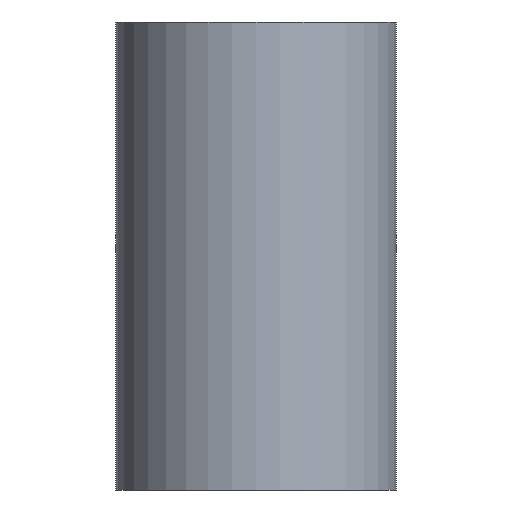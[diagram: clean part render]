
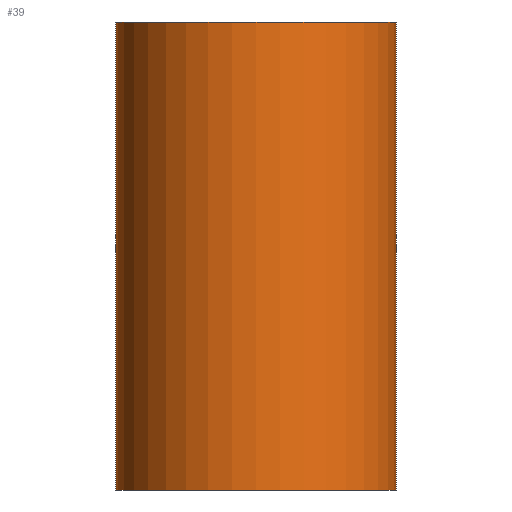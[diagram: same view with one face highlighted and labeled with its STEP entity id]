
A CAD part, front view. The second image highlights one B-rep face of the part: STEP entity #39.
In plain terms, the highlighted cylindrical face has radius 6 mm (diameter 12 mm), a full revolution.
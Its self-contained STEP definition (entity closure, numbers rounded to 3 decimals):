
#39 = ADVANCED_FACE('',(#40),#54,.T.);
#40 = FACE_BOUND('',#41,.F.);
#41 = EDGE_LOOP('',(#42,#72,#99,#100));
#42 = ORIENTED_EDGE('',*,*,#43,.T.);
#43 = EDGE_CURVE('',#44,#46,#48,.T.);
#44 = VERTEX_POINT('',#45);
#45 = CARTESIAN_POINT('',(6.,0.,0.));
#46 = VERTEX_POINT('',#47);
#47 = CARTESIAN_POINT('',(6.,0.,20.));
#48 = SEAM_CURVE('',#49,(#53,#65),.PCURVE_S1.);
#49 = LINE('',#50,#51);
#50 = CARTESIAN_POINT('',(6.,0.,0.));
#51 = VECTOR('',#52,1.);
#52 = DIRECTION('',(0.,0.,1.));
#53 = PCURVE('',#54,#59);
#54 = CYLINDRICAL_SURFACE('',#55,6.);
#55 = AXIS2_PLACEMENT_3D('',#56,#57,#58);
#56 = CARTESIAN_POINT('',(0.,0.,0.));
#57 = DIRECTION('',(-0.,-0.,-1.));
#58 = DIRECTION('',(1.,0.,0.));
#59 = DEFINITIONAL_REPRESENTATION('',(#60),#64);
#60 = LINE('',#61,#62);
#61 = CARTESIAN_POINT('',(-0.,0.));
#62 = VECTOR('',#63,1.);
#63 = DIRECTION('',(-0.,-1.));
#64 = ( GEOMETRIC_REPRESENTATION_CONTEXT(2) 
PARAMETRIC_REPRESENTATION_CONTEXT() REPRESENTATION_CONTEXT('2D SPACE',''
  ) );
#65 = PCURVE('',#54,#66);
#66 = DEFINITIONAL_REPRESENTATION('',(#67),#71);
#67 = LINE('',#68,#69);
#68 = CARTESIAN_POINT('',(-6.283,0.));
#69 = VECTOR('',#70,1.);
#70 = DIRECTION('',(-0.,-1.));
#71 = ( GEOMETRIC_REPRESENTATION_CONTEXT(2) 
PARAMETRIC_REPRESENTATION_CONTEXT() REPRESENTATION_CONTEXT('2D SPACE',''
  ) );
#72 = ORIENTED_EDGE('',*,*,#73,.T.);
#73 = EDGE_CURVE('',#46,#46,#74,.T.);
#74 = SURFACE_CURVE('',#75,(#80,#87),.PCURVE_S1.);
#75 = CIRCLE('',#76,6.);
#76 = AXIS2_PLACEMENT_3D('',#77,#78,#79);
#77 = CARTESIAN_POINT('',(0.,0.,20.));
#78 = DIRECTION('',(0.,0.,1.));
#79 = DIRECTION('',(1.,0.,0.));
#80 = PCURVE('',#54,#81);
#81 = DEFINITIONAL_REPRESENTATION('',(#82),#86);
#82 = LINE('',#83,#84);
#83 = CARTESIAN_POINT('',(-0.,-20.));
#84 = VECTOR('',#85,1.);
#85 = DIRECTION('',(-1.,0.));
#86 = ( GEOMETRIC_REPRESENTATION_CONTEXT(2) 
PARAMETRIC_REPRESENTATION_CONTEXT() REPRESENTATION_CONTEXT('2D SPACE',''
  ) );
#87 = PCURVE('',#88,#93);
#88 = PLANE('',#89);
#89 = AXIS2_PLACEMENT_3D('',#90,#91,#92);
#90 = CARTESIAN_POINT('',(0.,0.,20.));
#91 = DIRECTION('',(0.,0.,1.));
#92 = DIRECTION('',(1.,0.,-0.));
#93 = DEFINITIONAL_REPRESENTATION('',(#94),#98);
#94 = CIRCLE('',#95,6.);
#95 = AXIS2_PLACEMENT_2D('',#96,#97);
#96 = CARTESIAN_POINT('',(0.,0.));
#97 = DIRECTION('',(1.,0.));
#98 = ( GEOMETRIC_REPRESENTATION_CONTEXT(2) 
PARAMETRIC_REPRESENTATION_CONTEXT() REPRESENTATION_CONTEXT('2D SPACE',''
  ) );
#99 = ORIENTED_EDGE('',*,*,#43,.F.);
#100 = ORIENTED_EDGE('',*,*,#101,.F.);
#101 = EDGE_CURVE('',#44,#44,#102,.T.);
#102 = SURFACE_CURVE('',#103,(#108,#115),.PCURVE_S1.);
#103 = CIRCLE('',#104,6.);
#104 = AXIS2_PLACEMENT_3D('',#105,#106,#107);
#105 = CARTESIAN_POINT('',(0.,0.,0.));
#106 = DIRECTION('',(0.,0.,1.));
#107 = DIRECTION('',(1.,0.,0.));
#108 = PCURVE('',#54,#109);
#109 = DEFINITIONAL_REPRESENTATION('',(#110),#114);
#110 = LINE('',#111,#112);
#111 = CARTESIAN_POINT('',(-0.,0.));
#112 = VECTOR('',#113,1.);
#113 = DIRECTION('',(-1.,0.));
#114 = ( GEOMETRIC_REPRESENTATION_CONTEXT(2) 
PARAMETRIC_REPRESENTATION_CONTEXT() REPRESENTATION_CONTEXT('2D SPACE',''
  ) );
#115 = PCURVE('',#116,#121);
#116 = PLANE('',#117);
#117 = AXIS2_PLACEMENT_3D('',#118,#119,#120);
#118 = CARTESIAN_POINT('',(0.,0.,0.));
#119 = DIRECTION('',(0.,0.,1.));
#120 = DIRECTION('',(1.,0.,-0.));
#121 = DEFINITIONAL_REPRESENTATION('',(#122),#126);
#122 = CIRCLE('',#123,6.);
#123 = AXIS2_PLACEMENT_2D('',#124,#125);
#124 = CARTESIAN_POINT('',(0.,0.));
#125 = DIRECTION('',(1.,0.));
#126 = ( GEOMETRIC_REPRESENTATION_CONTEXT(2) 
PARAMETRIC_REPRESENTATION_CONTEXT() REPRESENTATION_CONTEXT('2D SPACE',''
  ) );
